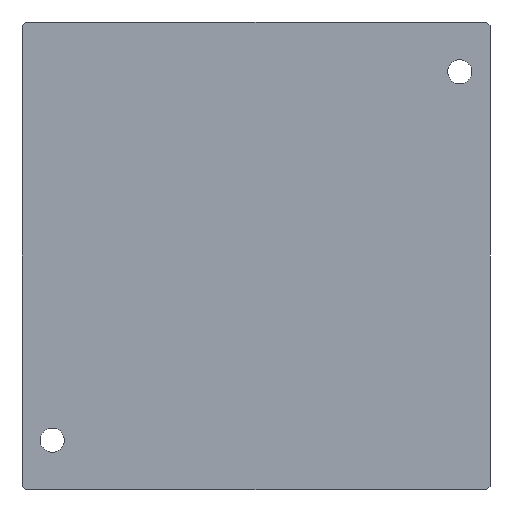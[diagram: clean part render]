
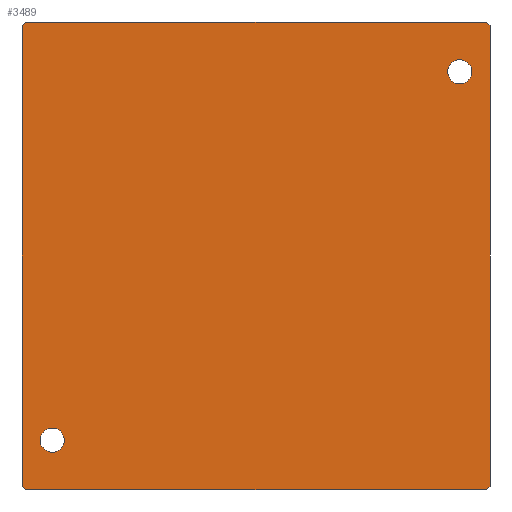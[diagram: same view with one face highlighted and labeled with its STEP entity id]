
A CAD part, front view. The second image highlights one B-rep face of the part: STEP entity #3489.
In plain terms, the highlighted planar face has unit normal (0, -1, 0).
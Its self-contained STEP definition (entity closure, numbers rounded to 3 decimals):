
#3429 = EDGE_CURVE('',#3430,#3430,#3432,.T.);
#3430 = VERTEX_POINT('',#3431);
#3431 = CARTESIAN_POINT('',(-26.99,0.,-23.188));
#3432 = CIRCLE('',#3433,1.6);
#3433 = AXIS2_PLACEMENT_3D('',#3434,#3435,#3436);
#3434 = CARTESIAN_POINT('',(-26.99,0.,-24.788));
#3435 = DIRECTION('',(0.,1.,0.));
#3436 = DIRECTION('',(0.,-0.,1.));
#3461 = EDGE_CURVE('',#3462,#3462,#3464,.T.);
#3462 = VERTEX_POINT('',#3463);
#3463 = CARTESIAN_POINT('',(26.99,0.,25.611));
#3464 = CIRCLE('',#3465,1.6);
#3465 = AXIS2_PLACEMENT_3D('',#3466,#3467,#3468);
#3466 = CARTESIAN_POINT('',(26.99,0.,24.011));
#3467 = DIRECTION('',(0.,1.,0.));
#3468 = DIRECTION('',(0.,-0.,1.));
#3489 = ADVANCED_FACE('',(#3490,#3493,#3559),#3562,.T.);
#3490 = FACE_BOUND('',#3491,.T.);
#3491 = EDGE_LOOP('',(#3492));
#3492 = ORIENTED_EDGE('',*,*,#3429,.T.);
#3493 = FACE_BOUND('',#3494,.T.);
#3494 = EDGE_LOOP('',(#3495,#3505,#3513,#3521,#3529,#3537,#3545,#3553));
#3495 = ORIENTED_EDGE('',*,*,#3496,.F.);
#3496 = EDGE_CURVE('',#3497,#3499,#3501,.T.);
#3497 = VERTEX_POINT('',#3498);
#3498 = CARTESIAN_POINT('',(-31.,0.,-30.889));
#3499 = VERTEX_POINT('',#3500);
#3500 = CARTESIAN_POINT('',(-31.,0.,30.111));
#3501 = LINE('',#3502,#3503);
#3502 = CARTESIAN_POINT('',(-31.,0.,30.111));
#3503 = VECTOR('',#3504,1.);
#3504 = DIRECTION('',(0.,0.,1.));
#3505 = ORIENTED_EDGE('',*,*,#3506,.F.);
#3506 = EDGE_CURVE('',#3507,#3497,#3509,.T.);
#3507 = VERTEX_POINT('',#3508);
#3508 = CARTESIAN_POINT('',(-30.5,0.,-31.389));
#3509 = LINE('',#3510,#3511);
#3510 = CARTESIAN_POINT('',(-31.,0.,-30.889));
#3511 = VECTOR('',#3512,1.);
#3512 = DIRECTION('',(-0.707,0.,0.707));
#3513 = ORIENTED_EDGE('',*,*,#3514,.F.);
#3514 = EDGE_CURVE('',#3515,#3507,#3517,.T.);
#3515 = VERTEX_POINT('',#3516);
#3516 = CARTESIAN_POINT('',(30.5,0.,-31.389));
#3517 = LINE('',#3518,#3519);
#3518 = CARTESIAN_POINT('',(-30.5,0.,-31.389));
#3519 = VECTOR('',#3520,1.);
#3520 = DIRECTION('',(-1.,0.,0.));
#3521 = ORIENTED_EDGE('',*,*,#3522,.F.);
#3522 = EDGE_CURVE('',#3523,#3515,#3525,.T.);
#3523 = VERTEX_POINT('',#3524);
#3524 = CARTESIAN_POINT('',(31.,0.,-30.889));
#3525 = LINE('',#3526,#3527);
#3526 = CARTESIAN_POINT('',(30.5,0.,-31.389));
#3527 = VECTOR('',#3528,1.);
#3528 = DIRECTION('',(-0.707,0.,-0.707));
#3529 = ORIENTED_EDGE('',*,*,#3530,.F.);
#3530 = EDGE_CURVE('',#3531,#3523,#3533,.T.);
#3531 = VERTEX_POINT('',#3532);
#3532 = CARTESIAN_POINT('',(31.,0.,30.111));
#3533 = LINE('',#3534,#3535);
#3534 = CARTESIAN_POINT('',(31.,0.,-30.889));
#3535 = VECTOR('',#3536,1.);
#3536 = DIRECTION('',(0.,0.,-1.));
#3537 = ORIENTED_EDGE('',*,*,#3538,.F.);
#3538 = EDGE_CURVE('',#3539,#3531,#3541,.T.);
#3539 = VERTEX_POINT('',#3540);
#3540 = CARTESIAN_POINT('',(30.5,0.,30.611));
#3541 = LINE('',#3542,#3543);
#3542 = CARTESIAN_POINT('',(31.,0.,30.111));
#3543 = VECTOR('',#3544,1.);
#3544 = DIRECTION('',(0.707,0.,-0.707));
#3545 = ORIENTED_EDGE('',*,*,#3546,.F.);
#3546 = EDGE_CURVE('',#3547,#3539,#3549,.T.);
#3547 = VERTEX_POINT('',#3548);
#3548 = CARTESIAN_POINT('',(-30.5,0.,30.611));
#3549 = LINE('',#3550,#3551);
#3550 = CARTESIAN_POINT('',(30.5,0.,30.611));
#3551 = VECTOR('',#3552,1.);
#3552 = DIRECTION('',(1.,0.,0.));
#3553 = ORIENTED_EDGE('',*,*,#3554,.F.);
#3554 = EDGE_CURVE('',#3499,#3547,#3555,.T.);
#3555 = LINE('',#3556,#3557);
#3556 = CARTESIAN_POINT('',(-30.5,0.,30.611));
#3557 = VECTOR('',#3558,1.);
#3558 = DIRECTION('',(0.707,0.,0.707));
#3559 = FACE_BOUND('',#3560,.T.);
#3560 = EDGE_LOOP('',(#3561));
#3561 = ORIENTED_EDGE('',*,*,#3461,.T.);
#3562 = PLANE('',#3563);
#3563 = AXIS2_PLACEMENT_3D('',#3564,#3565,#3566);
#3564 = CARTESIAN_POINT('',(0.,0.,0.));
#3565 = DIRECTION('',(0.,-1.,0.));
#3566 = DIRECTION('',(0.,0.,-1.));
